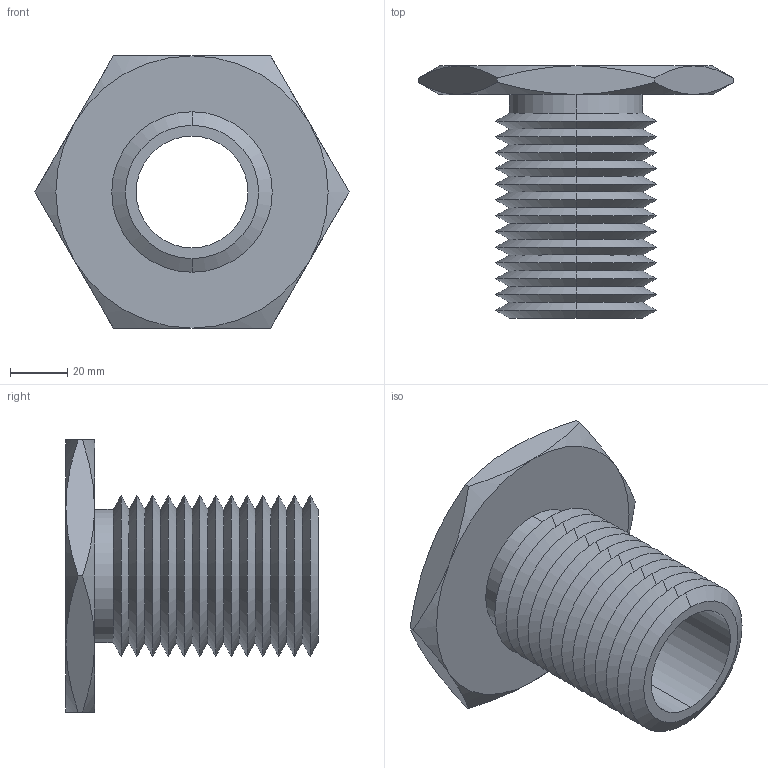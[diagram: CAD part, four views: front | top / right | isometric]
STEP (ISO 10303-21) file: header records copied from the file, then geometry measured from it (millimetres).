
FILE_DESCRIPTION (( 'STEP AP203' ), '1' );
FILE_NAME ('63302.W0056_M39x4.step', '2013-12-08T11:23:05', ( 'User' ), ( '' ), 'SwSTEP 2.0', 'SolidWorks 2009', '' );
FILE_SCHEMA (( 'CONFIG_CONTROL_DESIGN' ));
Length unit declared in the file: millimetre
Products named in the file (1): 63302.W0056_M39x4
Bounding box: 109.7 x 88 x 95 mm (x, y, z)
Volume: 128998.7 mm3; surface area: 50283.6 mm2
Topology: 1 solids, 1 shells, 79 faces, 162 edges, 86 vertices
Faces by surface type: cone 66, plane 9, cylinder 4
Entity records: 2271 total; most frequent: CARTESIAN_POINT 544, DIRECTION 372, ORIENTED_EDGE 324, EDGE_CURVE 162, AXIS2_PLACEMENT_3D 154, VERTEX_POINT 86, EDGE_LOOP 82, ADVANCED_FACE 79
